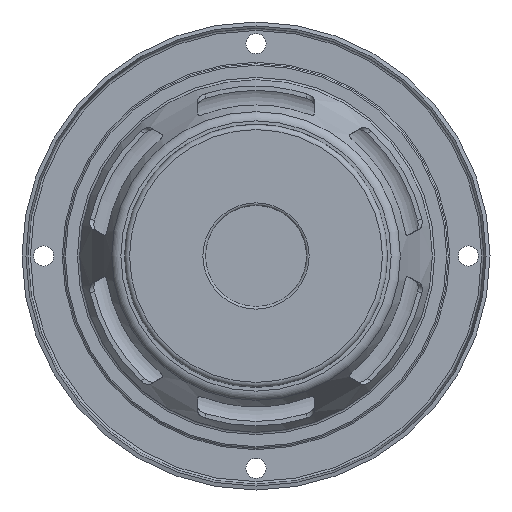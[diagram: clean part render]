
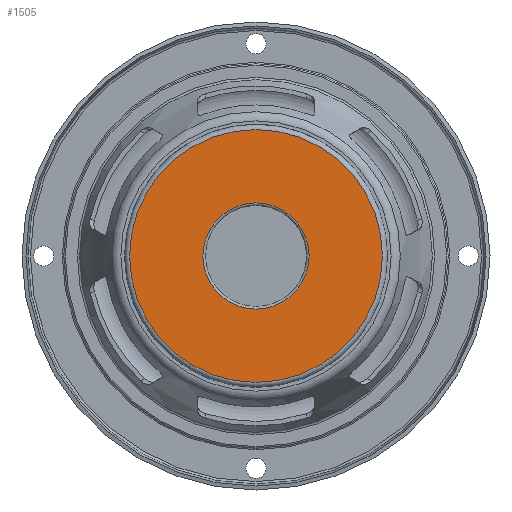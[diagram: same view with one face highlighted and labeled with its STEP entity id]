
A CAD part, front view. The second image highlights one B-rep face of the part: STEP entity #1505.
In plain terms, the highlighted planar face has unit normal (0, -1, 0).
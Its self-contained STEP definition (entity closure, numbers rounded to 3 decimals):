
#134 = DIRECTION ( 'NONE',  ( 0., 1., 0. ) ) ;
#1040 = DIRECTION ( 'NONE',  ( 0., -1., 0. ) ) ;
#1079 = CIRCLE ( 'NONE', #13884, 25. ) ;
#1417 = DIRECTION ( 'NONE',  ( 0., 0., -1. ) ) ;
#1505 = ADVANCED_FACE ( 'NONE', ( #15460, #4726 ), #9509, .T. ) ;
#1506 = DIRECTION ( 'NONE',  ( 0., -1., 0. ) ) ;
#3861 = VERTEX_POINT ( 'NONE', #10930 ) ;
#3939 = EDGE_LOOP ( 'NONE', ( #12021 ) ) ;
#4707 = CIRCLE ( 'NONE', #4718, 10.5 ) ;
#4718 = AXIS2_PLACEMENT_3D ( 'NONE', #12023, #134, #1417 ) ;
#4726 = FACE_OUTER_BOUND ( 'NONE', #3939, .T. ) ;
#5301 = CARTESIAN_POINT ( 'NONE',  ( 0., 0., 0. ) ) ;
#5976 = EDGE_CURVE ( 'NONE', #3861, #3861, #4707, .T. ) ;
#6443 = DIRECTION ( 'NONE',  ( 0., 0., -1. ) ) ;
#7629 = CARTESIAN_POINT ( 'NONE',  ( 10., 0., 0. ) ) ;
#8274 = DIRECTION ( 'NONE',  ( 0., 0., -1. ) ) ;
#9031 = AXIS2_PLACEMENT_3D ( 'NONE', #7629, #1506, #6443 ) ;
#9493 = ORIENTED_EDGE ( 'NONE', *, *, #5976, .T. ) ;
#9509 = PLANE ( 'NONE',  #9031 ) ;
#10212 = CARTESIAN_POINT ( 'NONE',  ( 0., 0., -25. ) ) ;
#10930 = CARTESIAN_POINT ( 'NONE',  ( 0., 0., -10.5 ) ) ;
#11875 = EDGE_LOOP ( 'NONE', ( #9493 ) ) ;
#12021 = ORIENTED_EDGE ( 'NONE', *, *, #12180, .T. ) ;
#12023 = CARTESIAN_POINT ( 'NONE',  ( 0., 0., 0. ) ) ;
#12180 = EDGE_CURVE ( 'NONE', #14763, #14763, #1079, .T. ) ;
#13884 = AXIS2_PLACEMENT_3D ( 'NONE', #5301, #1040, #8274 ) ;
#14763 = VERTEX_POINT ( 'NONE', #10212 ) ;
#15460 = FACE_BOUND ( 'NONE', #11875, .T. ) ;
